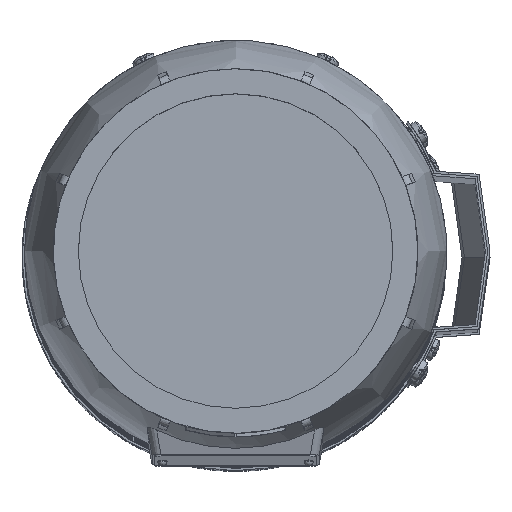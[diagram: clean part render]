
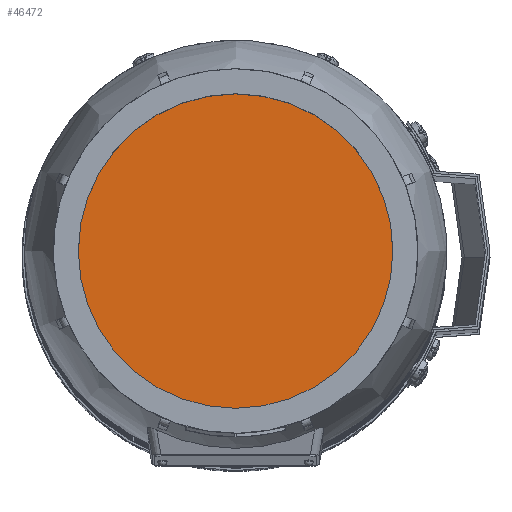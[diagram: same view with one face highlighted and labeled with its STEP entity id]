
A CAD part, top view. The second image highlights one B-rep face of the part: STEP entity #46472.
In plain terms, the highlighted planar face has unit normal (0, 0, 1) as drawn and (0, 1, 0) by its records, which use the part's own axes.
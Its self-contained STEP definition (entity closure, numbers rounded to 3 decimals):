
#9805=ORIENTED_EDGE('',*,*,#23861,.F.);
#23861=EDGE_CURVE('',#30889,#30889,#35619,.T.);
#30889=VERTEX_POINT('',#67089);
#35619=CIRCLE('',#49011,67.736);
#37742=EDGE_LOOP('',(#9805));
#41096=FACE_BOUND('',#37742,.T.);
#44468=PLANE('',#49010);
#46472=ADVANCED_FACE('',(#41096),#44468,.F.);
#49010=AXIS2_PLACEMENT_3D('',#67087,#53604,#53605);
#49011=AXIS2_PLACEMENT_3D('',#67088,#53606,#53607);
#53604=DIRECTION('',(0.,-1.,0.));
#53605=DIRECTION('',(0.,0.,-1.));
#53606=DIRECTION('',(0.,-1.,0.));
#53607=DIRECTION('',(0.,0.,-1.));
#67087=CARTESIAN_POINT('',(0.,154.,0.));
#67088=CARTESIAN_POINT('',(0.,154.,0.));
#67089=CARTESIAN_POINT('',(0.,154.,-67.736));
